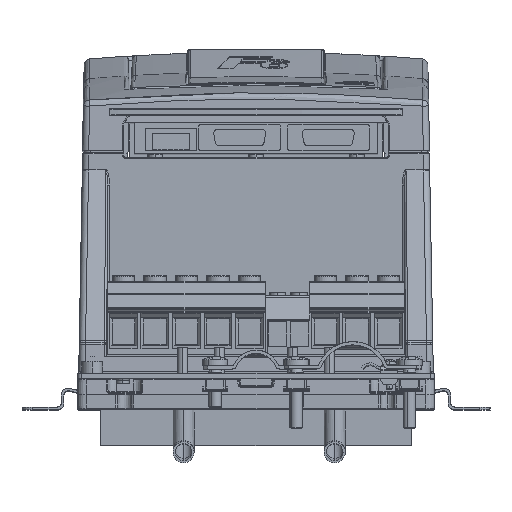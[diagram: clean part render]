
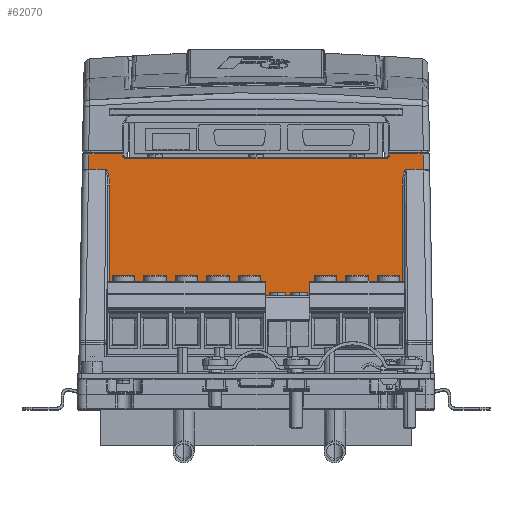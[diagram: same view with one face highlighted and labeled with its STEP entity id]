
A CAD part, top view. The second image highlights one B-rep face of the part: STEP entity #62070.
In plain terms, the highlighted planar face has unit normal (0, 0, 1).
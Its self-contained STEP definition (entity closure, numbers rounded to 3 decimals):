
#1352 = EDGE_CURVE ( 'NONE', #101527, #76675, #61113, .T. ) ;
#1496 = EDGE_CURVE ( 'NONE', #51864, #114578, #81585, .T. ) ;
#4014 = DIRECTION ( 'NONE',  ( -1., 0., 0. ) ) ;
#4102 = CARTESIAN_POINT ( 'NONE',  ( 69.763, -47.109, 124. ) ) ;
#4715 = CARTESIAN_POINT ( 'NONE',  ( -70.573, 41.234, 124. ) ) ;
#5199 = VERTEX_POINT ( 'NONE', #119154 ) ;
#7550 = CARTESIAN_POINT ( 'NONE',  ( -78.911, 89.115, 124. ) ) ;
#8064 = ORIENTED_EDGE ( 'NONE', *, *, #16516, .T. ) ;
#9402 = DIRECTION ( 'NONE',  ( 0., -1., 0. ) ) ;
#10053 = VERTEX_POINT ( 'NONE', #35673 ) ;
#10444 = CARTESIAN_POINT ( 'NONE',  ( 69.763, 38.164, 124. ) ) ;
#11756 = VECTOR ( 'NONE', #54159, 1000. ) ;
#12455 = VECTOR ( 'NONE', #12684, 1000. ) ;
#12684 = DIRECTION ( 'NONE',  ( 0., -1., 0. ) ) ;
#13526 = VERTEX_POINT ( 'NONE', #94282 ) ;
#13863 = LINE ( 'NONE', #68019, #12455 ) ;
#14723 = VERTEX_POINT ( 'NONE', #50125 ) ;
#15614 = CARTESIAN_POINT ( 'NONE',  ( 79.765, 41.234, 124. ) ) ;
#16516 = EDGE_CURVE ( 'NONE', #36706, #62549, #37868, .T. ) ;
#16575 = DIRECTION ( 'NONE',  ( -1., 0., 0. ) ) ;
#17083 = CARTESIAN_POINT ( 'NONE',  ( 70.573, 41.234, 124. ) ) ;
#17111 = DIRECTION ( 'NONE',  ( -1., 0., 0. ) ) ;
#17132 = DIRECTION ( 'NONE',  ( -0.018, -1., 0. ) ) ;
#17461 = CARTESIAN_POINT ( 'NONE',  ( 69.763, 89.215, 124. ) ) ;
#17813 = LINE ( 'NONE', #44881, #38283 ) ;
#18886 = CARTESIAN_POINT ( 'NONE',  ( -84.5, -47.109, 124. ) ) ;
#19843 = CARTESIAN_POINT ( 'NONE',  ( 62.5, 46.6, 124. ) ) ;
#19849 = EDGE_CURVE ( 'NONE', #76675, #10053, #13863, .T. ) ;
#22366 = DIRECTION ( 'NONE',  ( -1., 0., 0. ) ) ;
#22749 = CARTESIAN_POINT ( 'NONE',  ( -69.763, 38.164, 124. ) ) ;
#23423 = EDGE_CURVE ( 'NONE', #62549, #102846, #117189, .T. ) ;
#24010 = FACE_OUTER_BOUND ( 'NONE', #76162, .T. ) ;
#24196 = CARTESIAN_POINT ( 'NONE',  ( 63.5, 48.6, 124. ) ) ;
#24417 = EDGE_CURVE ( 'NONE', #87156, #51973, #78043, .T. ) ;
#26228 = CARTESIAN_POINT ( 'NONE',  ( -84.5, 48.6, 124. ) ) ;
#28507 = CARTESIAN_POINT ( 'NONE',  ( 71.729, 41.234, 124. ) ) ;
#28586 = LINE ( 'NONE', #111738, #82204 ) ;
#29252 = CARTESIAN_POINT ( 'NONE',  ( -62.5, 46.6, 124. ) ) ;
#29743 = DIRECTION ( 'NONE',  ( -1., 0., 0. ) ) ;
#30317 = CARTESIAN_POINT ( 'NONE',  ( 62.5, 47.6, 124. ) ) ;
#30349 = DIRECTION ( 'NONE',  ( 0., 1., 0. ) ) ;
#30627 = CIRCLE ( 'NONE', #43966, 1. ) ;
#31369 = CARTESIAN_POINT ( 'NONE',  ( -79.765, 41.234, 124. ) ) ;
#31878 = CARTESIAN_POINT ( 'NONE',  ( -84.5, 89.215, 124. ) ) ;
#33875 = LINE ( 'NONE', #63318, #81595 ) ;
#33948 = DIRECTION ( 'NONE',  ( -1., 0., 0. ) ) ;
#34626 = CARTESIAN_POINT ( 'NONE',  ( -71.729, 41.234, 124. ) ) ;
#35673 = CARTESIAN_POINT ( 'NONE',  ( -69.763, -47.109, 124. ) ) ;
#36145 = EDGE_CURVE ( 'NONE', #109021, #77097, #39936, .T. ) ;
#36706 = VERTEX_POINT ( 'NONE', #15614 ) ;
#37652 = ORIENTED_EDGE ( 'NONE', *, *, #63586, .F. ) ;
#37868 = LINE ( 'NONE', #111415, #60205 ) ;
#38283 = VECTOR ( 'NONE', #9402, 1000. ) ;
#38639 = VECTOR ( 'NONE', #17132, 1000. ) ;
#39357 = DIRECTION ( 'NONE',  ( 0., 0., 1. ) ) ;
#39936 =( BOUNDED_CURVE ( )  B_SPLINE_CURVE ( 3, ( #55570, #10444, #17083, #28507 ),
 .UNSPECIFIED., .F., .F. ) 
 B_SPLINE_CURVE_WITH_KNOTS ( ( 4, 4 ),
 ( 4.73, 6.284 ),
 .UNSPECIFIED. ) 
 CURVE ( )  GEOMETRIC_REPRESENTATION_ITEM ( )  RATIONAL_B_SPLINE_CURVE ( ( 1., 0.809, 0.809, 1. ) ) 
 REPRESENTATION_ITEM ( '' )  );
#40139 = ORIENTED_EDGE ( 'NONE', *, *, #43633, .T. ) ;
#41457 = DIRECTION ( 'NONE',  ( -1., 0., 0. ) ) ;
#41835 = VECTOR ( 'NONE', #17111, 1000. ) ;
#42770 = CARTESIAN_POINT ( 'NONE',  ( -62.5, 47.6, 124. ) ) ;
#43521 = VECTOR ( 'NONE', #4014, 1000. ) ;
#43633 = EDGE_CURVE ( 'NONE', #14723, #13526, #28586, .T. ) ;
#43966 = AXIS2_PLACEMENT_3D ( 'NONE', #30317, #39357, #29743 ) ;
#44881 = CARTESIAN_POINT ( 'NONE',  ( 63.5, 89.215, 124. ) ) ;
#48667 = CARTESIAN_POINT ( 'NONE',  ( 69.763, 33.786, 124. ) ) ;
#49011 = ORIENTED_EDGE ( 'NONE', *, *, #64690, .F. ) ;
#50125 = CARTESIAN_POINT ( 'NONE',  ( -63.5, 47.6, 124. ) ) ;
#51168 = CARTESIAN_POINT ( 'NONE',  ( 79.767, 41.234, 124. ) ) ;
#51864 = VERTEX_POINT ( 'NONE', #81096 ) ;
#51973 = VERTEX_POINT ( 'NONE', #29252 ) ;
#52666 = CARTESIAN_POINT ( 'NONE',  ( 71.729, 41.234, 124. ) ) ;
#54141 = ORIENTED_EDGE ( 'NONE', *, *, #113069, .T. ) ;
#54159 = DIRECTION ( 'NONE',  ( 0., 1., 0. ) ) ;
#54363 = VERTEX_POINT ( 'NONE', #4102 ) ;
#54567 = ORIENTED_EDGE ( 'NONE', *, *, #36145, .T. ) ;
#55570 = CARTESIAN_POINT ( 'NONE',  ( 69.763, 33.786, 124. ) ) ;
#56036 = VECTOR ( 'NONE', #33948, 1000. ) ;
#56690 = ORIENTED_EDGE ( 'NONE', *, *, #90873, .F. ) ;
#59459 = CARTESIAN_POINT ( 'NONE',  ( -69.763, 33.786, 124. ) ) ;
#60205 = VECTOR ( 'NONE', #102337, 1000. ) ;
#61113 =( BOUNDED_CURVE ( )  B_SPLINE_CURVE ( 3, ( #34626, #4715, #22749, #59459 ),
 .UNSPECIFIED., .F., .F. ) 
 B_SPLINE_CURVE_WITH_KNOTS ( ( 4, 4 ),
 ( 6.282, 7.836 ),
 .UNSPECIFIED. ) 
 CURVE ( )  GEOMETRIC_REPRESENTATION_ITEM ( )  RATIONAL_B_SPLINE_CURVE ( ( 1., 0.809, 0.809, 1. ) ) 
 REPRESENTATION_ITEM ( '' )  );
#61851 = AXIS2_PLACEMENT_3D ( 'NONE', #42770, #113976, #22366 ) ;
#61975 = LINE ( 'NONE', #51168, #72091 ) ;
#62070 = ADVANCED_FACE ( 'NONE', ( #24010 ), #97503, .F. ) ;
#62549 = VERTEX_POINT ( 'NONE', #108796 ) ;
#63198 = EDGE_CURVE ( 'NONE', #102846, #5199, #17813, .T. ) ;
#63318 = CARTESIAN_POINT ( 'NONE',  ( -71.729, 41.234, 124. ) ) ;
#63586 = EDGE_CURVE ( 'NONE', #54363, #10053, #118906, .T. ) ;
#64690 = EDGE_CURVE ( 'NONE', #87156, #5199, #30627, .T. ) ;
#66243 = ORIENTED_EDGE ( 'NONE', *, *, #1352, .T. ) ;
#68019 = CARTESIAN_POINT ( 'NONE',  ( -69.763, 89.215, 124. ) ) ;
#70768 = ORIENTED_EDGE ( 'NONE', *, *, #24417, .T. ) ;
#72091 = VECTOR ( 'NONE', #109013, 1000. ) ;
#73694 = ORIENTED_EDGE ( 'NONE', *, *, #113476, .T. ) ;
#74076 = VECTOR ( 'NONE', #16575, 1000. ) ;
#74608 = ORIENTED_EDGE ( 'NONE', *, *, #19849, .T. ) ;
#74700 = ORIENTED_EDGE ( 'NONE', *, *, #74948, .T. ) ;
#74948 = EDGE_CURVE ( 'NONE', #54363, #109021, #101162, .T. ) ;
#76162 = EDGE_LOOP ( 'NONE', ( #49011, #70768, #56690, #40139, #97734, #101116, #54141, #66243, #74608, #37652, #74700, #54567, #73694, #8064, #89151, #106515 ) ) ;
#76675 = VERTEX_POINT ( 'NONE', #78964 ) ;
#77097 = VERTEX_POINT ( 'NONE', #52666 ) ;
#78043 = LINE ( 'NONE', #95550, #43521 ) ;
#78964 = CARTESIAN_POINT ( 'NONE',  ( -69.763, 33.786, 124. ) ) ;
#79659 = DIRECTION ( 'NONE',  ( 1., 0., 0. ) ) ;
#81096 = CARTESIAN_POINT ( 'NONE',  ( -79.633, 48.6, 124. ) ) ;
#81585 = LINE ( 'NONE', #7550, #38639 ) ;
#81595 = VECTOR ( 'NONE', #79659, 1000. ) ;
#82204 = VECTOR ( 'NONE', #30349, 1000. ) ;
#83700 = EDGE_CURVE ( 'NONE', #13526, #51864, #88767, .T. ) ;
#87156 = VERTEX_POINT ( 'NONE', #19843 ) ;
#88158 = CARTESIAN_POINT ( 'NONE',  ( -84.5, 48.6, 124. ) ) ;
#88767 = LINE ( 'NONE', #88158, #56036 ) ;
#89151 = ORIENTED_EDGE ( 'NONE', *, *, #23423, .T. ) ;
#90873 = EDGE_CURVE ( 'NONE', #14723, #51973, #92691, .T. ) ;
#91068 = CARTESIAN_POINT ( 'NONE',  ( -71.729, 41.234, 124. ) ) ;
#92691 = CIRCLE ( 'NONE', #61851, 1. ) ;
#94282 = CARTESIAN_POINT ( 'NONE',  ( -63.5, 48.6, 124. ) ) ;
#95550 = CARTESIAN_POINT ( 'NONE',  ( 49.191, 46.6, 124. ) ) ;
#96922 = DIRECTION ( 'NONE',  ( 0., 0., -1. ) ) ;
#97503 = PLANE ( 'NONE',  #101496 ) ;
#97734 = ORIENTED_EDGE ( 'NONE', *, *, #83700, .T. ) ;
#101116 = ORIENTED_EDGE ( 'NONE', *, *, #1496, .T. ) ;
#101162 = LINE ( 'NONE', #17461, #11756 ) ;
#101496 = AXIS2_PLACEMENT_3D ( 'NONE', #31878, #96922, #41457 ) ;
#101527 = VERTEX_POINT ( 'NONE', #91068 ) ;
#102337 = DIRECTION ( 'NONE',  ( -0.018, 1., 0. ) ) ;
#102846 = VERTEX_POINT ( 'NONE', #24196 ) ;
#106515 = ORIENTED_EDGE ( 'NONE', *, *, #63198, .T. ) ;
#108796 = CARTESIAN_POINT ( 'NONE',  ( 79.633, 48.6, 124. ) ) ;
#109013 = DIRECTION ( 'NONE',  ( 1., 0., 0. ) ) ;
#109021 = VERTEX_POINT ( 'NONE', #48667 ) ;
#111415 = CARTESIAN_POINT ( 'NONE',  ( 78.857, 92.127, 124. ) ) ;
#111738 = CARTESIAN_POINT ( 'NONE',  ( -63.5, 89.215, 124. ) ) ;
#113069 = EDGE_CURVE ( 'NONE', #114578, #101527, #33875, .T. ) ;
#113476 = EDGE_CURVE ( 'NONE', #77097, #36706, #61975, .T. ) ;
#113976 = DIRECTION ( 'NONE',  ( 0., 0., 1. ) ) ;
#114578 = VERTEX_POINT ( 'NONE', #31369 ) ;
#117189 = LINE ( 'NONE', #26228, #74076 ) ;
#118906 = LINE ( 'NONE', #18886, #41835 ) ;
#119154 = CARTESIAN_POINT ( 'NONE',  ( 63.5, 47.6, 124. ) ) ;
